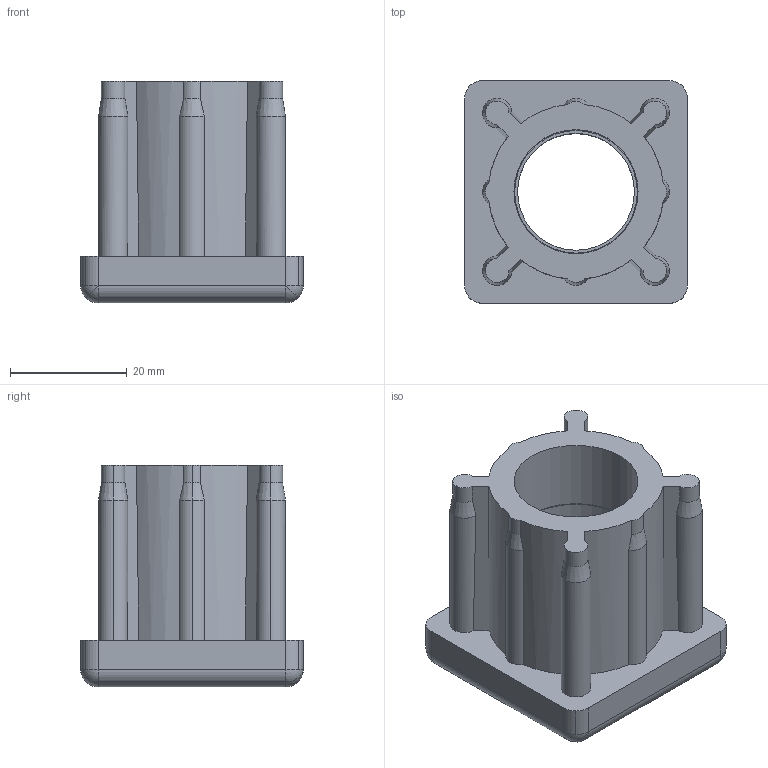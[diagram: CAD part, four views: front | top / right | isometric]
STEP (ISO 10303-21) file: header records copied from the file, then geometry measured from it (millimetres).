
FILE_DESCRIPTION (( 'STEP AP214' ), '1' );
FILE_NAME ('42006860520.STEP', '2020-02-26T11:34:16', ( '' ), ( '' ), 'SwSTEP 2.0', 'SolidWorks 2018', '' );
FILE_SCHEMA (( 'AUTOMOTIVE_DESIGN' ));
Length unit declared in the file: millimetre
Products named in the file (4): BC_M20.stp; Component1.stp; 42006860520; 42006860520.stp
Assembly tree (3 placements, depth 3):
  42006860520
    42006860520.stp
      Component1.stp
      BC_M20.stp
Bounding box: 38.1 x 38.1 x 38 mm (x, y, z)
Volume: 22954 mm3; surface area: 13341.8 mm2
Topology: 2 solids, 2 shells, 130 faces, 314 edges, 192 vertices
Faces by surface type: cylinder 70, cone 26, plane 20, sphere 8, torus 6
Entity records: 4004 total; most frequent: CARTESIAN_POINT 751, DIRECTION 730, ORIENTED_EDGE 628, EDGE_CURVE 314, AXIS2_PLACEMENT_3D 311, VERTEX_POINT 192, CIRCLE 174, EDGE_LOOP 138
